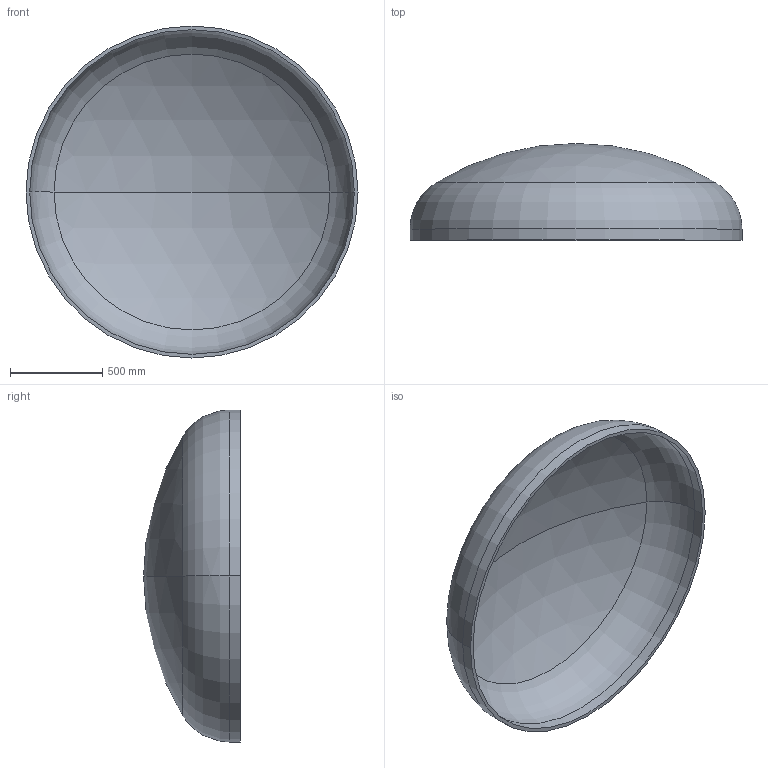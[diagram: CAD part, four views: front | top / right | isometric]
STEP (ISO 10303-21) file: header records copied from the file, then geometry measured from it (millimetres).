
FILE_DESCRIPTION (( 'STEP AP203' ), '1' );
FILE_NAME ('DIN 28013 Korbbogenform_-_Boden DIN 28013 - 1800 x 60 - I - s=20.step', '2016-07-01T12:21:08', ( '' ), ( '' ), 'SwSTEP 2.0', 'SolidWorks 2013', '' );
FILE_SCHEMA (( 'CONFIG_CONTROL_DESIGN' ));
Length unit declared in the file: millimetre
Products named in the file (1): DIN 28013 Korbbogenform_-_Boden DIN 28013 - 1800 x 60 - I - s=20
Bounding box: 1800 x 524.41 x 1800 mm (x, y, z)
Volume: 76061260.5 mm3; surface area: 7718801.7 mm2
Topology: 1 solids, 1 shells, 13 faces, 24 edges, 14 vertices
Faces by surface type: torus 4, cylinder 4, sphere 4, plane 1
Entity records: 407 total; most frequent: DIRECTION 72, CARTESIAN_POINT 52, ORIENTED_EDGE 48, AXIS2_PLACEMENT_3D 34, EDGE_CURVE 24, CIRCLE 20, EDGE_LOOP 14, VERTEX_POINT 14
